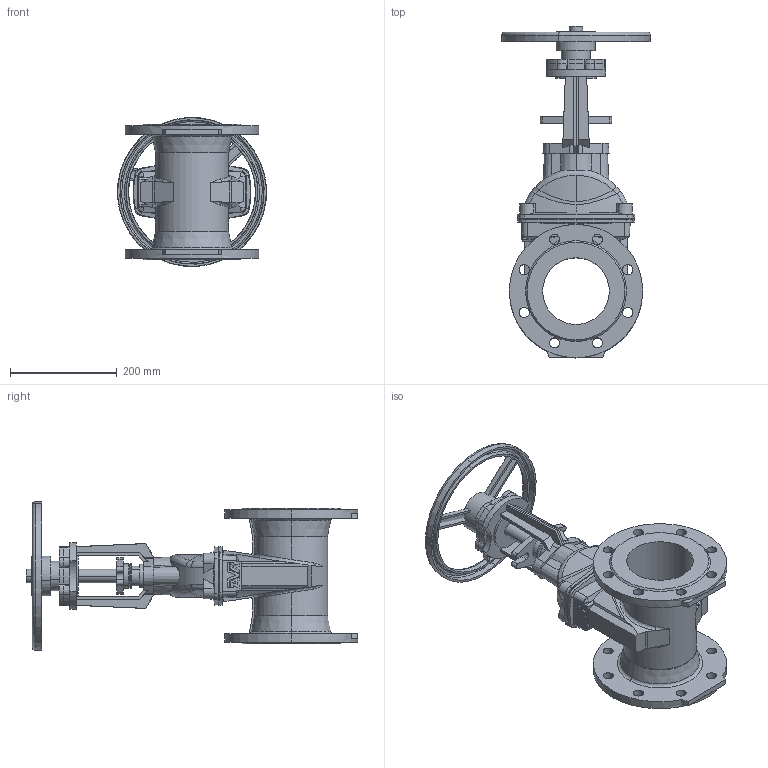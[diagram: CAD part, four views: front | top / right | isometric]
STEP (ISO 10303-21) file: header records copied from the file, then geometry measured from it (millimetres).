
FILE_DESCRIPTION (( 'STEP AP203' ), '1' );
FILE_NAME ('O_21_34_DN125_41XXXXX close_REV01.step', '2022-02-15T07:19:47', ( '' ), ( '' ), 'SwSTEP 2.0', 'SolidWorks 2019', '' );
FILE_SCHEMA (( 'CONFIG_CONTROL_DESIGN' ));
Length unit declared in the file: millimetre
Products named in the file (1): O_21_34_DN125_41XXXXX close_REV01
Bounding box: 279.5 x 622.17 x 279.5 mm (x, y, z)
Volume: 5758309 mm3; surface area: 705032.6 mm2
Topology: 1 solids, 1 shells, 572 faces, 1549 edges, 995 vertices
Faces by surface type: plane 227, cylinder 117, cone 111, bspline 71, torus 42, sphere 4
Entity records: 22710 total; most frequent: CARTESIAN_POINT 8858, ORIENTED_EDGE 3090, DIRECTION 2673, EDGE_CURVE 1545, AXIS2_PLACEMENT_3D 995, VERTEX_POINT 995, VECTOR 683, LINE 683
